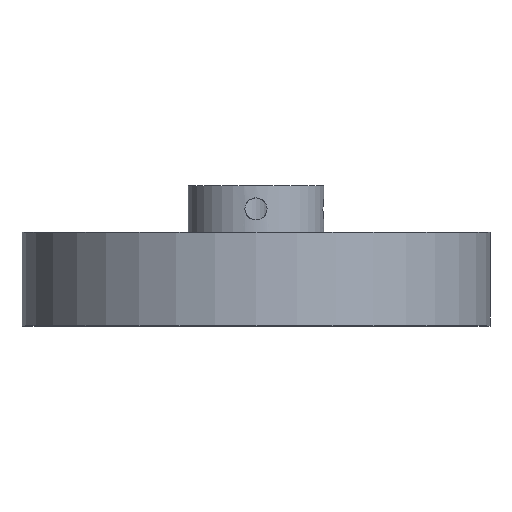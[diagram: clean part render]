
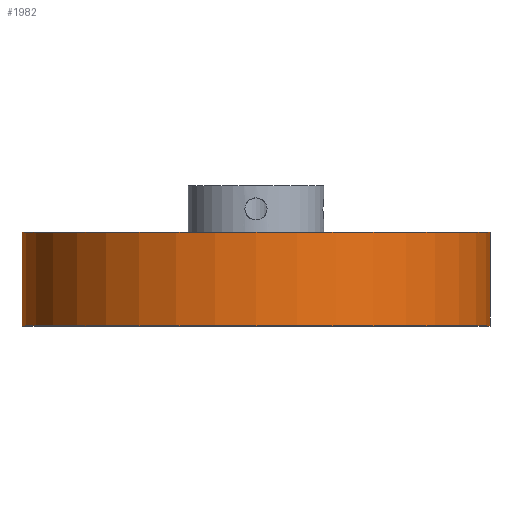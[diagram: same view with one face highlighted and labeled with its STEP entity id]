
A CAD part, top view. The second image highlights one B-rep face of the part: STEP entity #1982.
In plain terms, the highlighted cylindrical face has radius 63.5 mm (diameter 127 mm), a full revolution.
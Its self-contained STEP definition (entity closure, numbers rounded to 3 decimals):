
#270=FACE_OUTER_BOUND('',#364,.T.);
#364=EDGE_LOOP('',(#1623,#1624,#1625,#1626));
#550=LINE('',#3317,#696);
#696=VECTOR('',#2771,63.5);
#815=CIRCLE('',#2212,63.5);
#816=CIRCLE('',#2213,63.5);
#991=VERTEX_POINT('',#3314);
#992=VERTEX_POINT('',#3316);
#1262=EDGE_CURVE('',#991,#991,#815,.T.);
#1263=EDGE_CURVE('',#991,#992,#550,.T.);
#1264=EDGE_CURVE('',#992,#992,#816,.T.);
#1623=ORIENTED_EDGE('',*,*,#1262,.F.);
#1624=ORIENTED_EDGE('',*,*,#1263,.T.);
#1625=ORIENTED_EDGE('',*,*,#1264,.T.);
#1626=ORIENTED_EDGE('',*,*,#1263,.F.);
#1892=CYLINDRICAL_SURFACE('',#2211,63.5);
#1982=ADVANCED_FACE('',(#270),#1892,.T.);
#2211=AXIS2_PLACEMENT_3D('',#3313,#2767,#2768);
#2212=AXIS2_PLACEMENT_3D('',#3315,#2769,#2770);
#2213=AXIS2_PLACEMENT_3D('',#3318,#2772,#2773);
#2767=DIRECTION('center_axis',(0.,1.,0.));
#2768=DIRECTION('ref_axis',(-1.,0.,0.));
#2769=DIRECTION('center_axis',(0.,1.,0.));
#2770=DIRECTION('ref_axis',(-1.,0.,0.));
#2771=DIRECTION('',(0.,-1.,0.));
#2772=DIRECTION('center_axis',(0.,1.,0.));
#2773=DIRECTION('ref_axis',(-1.,0.,0.));
#3313=CARTESIAN_POINT('Origin',(0.,0.,0.));
#3314=CARTESIAN_POINT('',(63.5,25.4,0.));
#3315=CARTESIAN_POINT('Origin',(0.,25.4,0.));
#3316=CARTESIAN_POINT('',(63.5,0.,0.));
#3317=CARTESIAN_POINT('',(63.5,0.,0.));
#3318=CARTESIAN_POINT('Origin',(0.,0.,0.));
